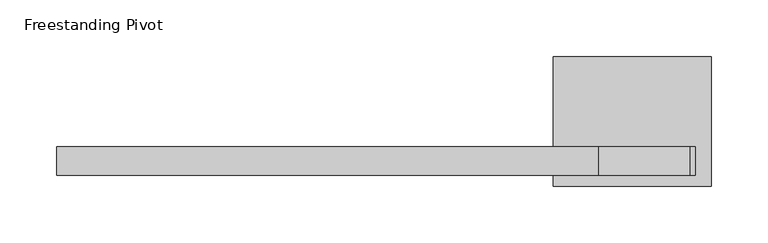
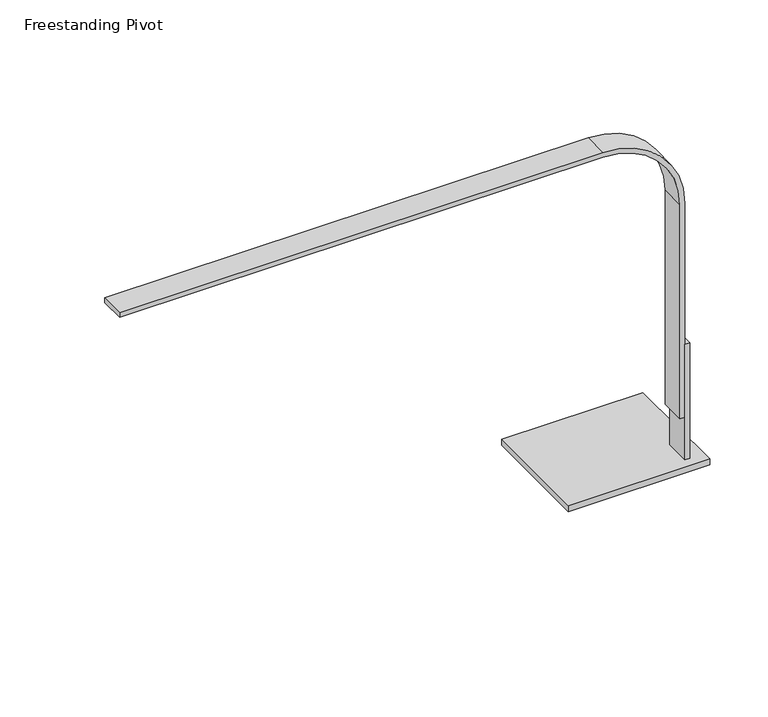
"""IFC4 building model written with IfcOpenShell, lengths in millimetres: light fixture geometry, Haworth_Lighting-LIM : Freestanding Pivot."""

import ifcopenshell
import ifcopenshell.guid

model = None  # the IFC model being written
_history = None  # IfcOwnerHistory: only IFC2X3 demands one
_inside = {}  # id of a spatial element -> (the spatial element, [elements in it])
_under = {}  # id of a project, library or spatial element -> (it, [spatial elements below it])
_declared = {}  # id of a project -> (the project, [libraries it declares])
_typed = {}  # id of a type object -> (the type object, [elements of that type])
_made_of = {}  # id of a material, layer set ... -> (it, [elements and type objects made of it])


def new_model(schema):
    """Start an empty IFC model of exactly this schema.

    Asked for "IFC4X3", IfcOpenShell would pick the latest addendum, in which some entities
    have other attributes; the version numbers below select the first issue.
    IFC2X3 requires an IfcOwnerHistory on every rooted entity: one is made here for all.
    """
    global model, _history
    if schema == "IFC4X3":
        model = ifcopenshell.file(schema_version=(4, 3, 0, 0))
    else:
        model = ifcopenshell.file(schema=schema)
    _inside.clear()
    _under.clear()
    _declared.clear()
    _typed.clear()
    _made_of.clear()
    _history = None
    if model.schema == "IFC2X3":
        org = make("IfcOrganization", Name="unknown")
        user = make(
            "IfcPersonAndOrganization",
            ThePerson=make("IfcPerson", FamilyName="unknown"),
            TheOrganization=org,
        )
        app = make(
            "IfcApplication",
            ApplicationDeveloper=org,
            Version="unknown",
            ApplicationFullName="unknown",
            ApplicationIdentifier="unknown",
        )
        _history = make(
            "IfcOwnerHistory",
            OwningUser=user,
            OwningApplication=app,
            ChangeAction="ADDED",
            CreationDate=0,
        )
    return model


def make(cls, **values):
    """One entity of the class cls with the attributes given. An attribute that is None is left unset."""
    return model.create_entity(
        cls, **{name: value for name, value in values.items() if value is not None}
    )


def rooted(cls, **values):
    """An entity with a GlobalId (a new one), such as an element, a storey or a relation."""
    return make(cls, GlobalId=ifcopenshell.guid.new(), OwnerHistory=_history, **values)


def si_unit(unit_type, name, prefix=None):
    """IfcSIUnit, for example si_unit("LENGTHUNIT", "METRE", prefix="MILLI")."""
    return make("IfcSIUnit", UnitType=unit_type, Prefix=prefix, Name=name)


def assignment(units):
    """IfcUnitAssignment: the units of a project."""
    return None if units is None else make("IfcUnitAssignment", Units=units)


def point(xyz):
    """IfcCartesianPoint."""
    return None if xyz is None else make("IfcCartesianPoint", Coordinates=xyz)


def direction(xyz):
    """IfcDirection."""
    return None if xyz is None else make("IfcDirection", DirectionRatios=xyz)


def frame(location, z_axis=None, x_axis=None):
    """IfcAxis2Placement3D, a coordinate frame: its origin and axes. An axis left out is left unset."""
    return make(
        "IfcAxis2Placement3D",
        Location=point(location),
        Axis=direction(z_axis),
        RefDirection=direction(x_axis),
    )


def frame_2d(location, x_axis=None):
    """IfcAxis2Placement2D, a coordinate frame in the plane: its origin and x axis."""
    return make(
        "IfcAxis2Placement2D", Location=point(location), RefDirection=direction(x_axis)
    )


def origin():
    """The frame at (0, 0, 0) with its axes left unset."""
    return frame((0.0, 0.0, 0.0))


def place(relative_to, where):
    """IfcLocalPlacement: puts the frame where relative to a parent placement (None: the world)."""
    return make(
        "IfcLocalPlacement", PlacementRelTo=relative_to, RelativePlacement=where
    )


def context(
    kind, dimensions, precision=None, world=None, true_north=None, identifier=None
):
    """IfcGeometricRepresentationContext, for example the 3D "Model" context."""
    return make(
        "IfcGeometricRepresentationContext",
        ContextIdentifier=identifier,
        ContextType=kind,
        CoordinateSpaceDimension=dimensions,
        Precision=precision,
        WorldCoordinateSystem=world,
        TrueNorth=true_north,
    )


def project(units=None, contexts=None):
    """IfcProject with its units and contexts."""
    return rooted(
        "IfcProject",
        Name="project",
        RepresentationContexts=contexts,
        UnitsInContext=assignment(units),
    )


def spatial(cls, under=None, at=None, **own):
    """A site, building, storey or space (cls), placed at a placement, below another one or the project."""
    s = rooted(cls, ObjectPlacement=at, **own)
    if under is not None:
        _under.setdefault(under.id(), (under, []))[1].append(s)
    return s


def polyline(points):
    """IfcPolyline through the points."""
    return make("IfcPolyline", Points=[point(p) for p in points])


def circle_curve(where, radius):
    """IfcCircle in the frame where."""
    return make("IfcCircle", Position=where, Radius=radius)


def trimmed(basis, trim1, trim2, sense, master):
    """IfcTrimmedCurve: the piece of a basis curve between two trims."""
    return make(
        "IfcTrimmedCurve",
        BasisCurve=basis,
        Trim1=trim1,
        Trim2=trim2,
        SenseAgreement=sense,
        MasterRepresentation=master,
    )


def segment(curve, same_sense, transition):
    """IfcCompositeCurveSegment."""
    return make(
        "IfcCompositeCurveSegment",
        Transition=transition,
        SameSense=same_sense,
        ParentCurve=curve,
    )


def composite_curve(segments, self_intersect=None):
    """IfcCompositeCurve: segments joined end to end."""
    return make("IfcCompositeCurve", Segments=segments, SelfIntersect=self_intersect)


def outline(outer, holes=None, kind="AREA"):
    """IfcArbitraryClosedProfileDef: a profile drawn as a closed curve; with holes, ...WithVoids."""
    if holes is None:
        return make("IfcArbitraryClosedProfileDef", ProfileType=kind, OuterCurve=outer)
    return make(
        "IfcArbitraryProfileDefWithVoids",
        ProfileType=kind,
        OuterCurve=outer,
        InnerCurves=holes,
    )


def extrude(swept, where, along, depth):
    """IfcExtrudedAreaSolid: the profile swept, set in the frame where, extruded along a direction by depth."""
    return make(
        "IfcExtrudedAreaSolid",
        SweptArea=swept,
        Position=where,
        ExtrudedDirection=direction(along),
        Depth=depth,
    )


def faces_of(points, faces, orient=None, outer=None):
    """IfcFace entities. A face is a list of loops; a loop is a list of indices into points, from 0.

    orient and outer hold one flag for each loop. By default every Orientation is true, the
    first loop of a face is its IfcFaceOuterBound and the others are IfcFaceBound.
    """
    made = []
    for i, loops in enumerate(faces):
        bounds = []
        for j, loop in enumerate(loops):
            is_outer = j == 0 if outer is None else outer[i][j]
            bounds.append(
                make(
                    "IfcFaceOuterBound" if is_outer else "IfcFaceBound",
                    Bound=make("IfcPolyLoop", Polygon=[points[k] for k in loop]),
                    Orientation=True if orient is None else orient[i][j],
                )
            )
        made.append(make("IfcFace", Bounds=bounds))
    return made


def faceted_brep(points, faces, orient=None, outer=None, voids=None):
    """IfcFacetedBrep: a solid bounded by flat faces; with voids (closed shells), ...WithVoids."""
    shared = [point(p) for p in points]
    hull = make("IfcClosedShell", CfsFaces=faces_of(shared, faces, orient, outer))
    if voids is None:
        return make("IfcFacetedBrep", Outer=hull)
    return make(
        "IfcFacetedBrepWithVoids",
        Outer=hull,
        Voids=[
            make(cls, CfsFaces=faces_of(shared, fs, o, b)) for cls, fs, o, b in voids
        ],
    )


def shape(context_of_items, identifier, shape_type, items):
    """IfcShapeRepresentation: the items that make up one representation, for example the "Body"."""
    return make(
        "IfcShapeRepresentation",
        ContextOfItems=context_of_items,
        RepresentationIdentifier=identifier,
        RepresentationType=shape_type,
        Items=items,
    )


def source(mapping_origin, context_of_items, identifier, shape_type, items):
    """IfcRepresentationMap: a shape defined once, which mapped items show again and again."""
    return make(
        "IfcRepresentationMap",
        MappingOrigin=mapping_origin,
        MappedRepresentation=shape(context_of_items, identifier, shape_type, items),
    )


def transform(
    local_origin,
    x_axis=None,
    y_axis=None,
    z_axis=None,
    scale=None,
    scale2=None,
    scale3=None,
    uniform=True,
):
    """IfcCartesianTransformationOperator3D, or its non-uniform kind. x_axis, y_axis, z_axis: its Axis1, 2, 3."""
    if uniform:
        return make(
            "IfcCartesianTransformationOperator3D",
            Axis1=direction(x_axis),
            Axis2=direction(y_axis),
            LocalOrigin=point(local_origin),
            Scale=scale,
            Axis3=direction(z_axis),
        )
    return make(
        "IfcCartesianTransformationOperator3DnonUniform",
        Axis1=direction(x_axis),
        Axis2=direction(y_axis),
        LocalOrigin=point(local_origin),
        Scale=scale,
        Axis3=direction(z_axis),
        Scale2=scale2,
        Scale3=scale3,
    )


def mapped(mapping_source, mapping_target):
    """IfcMappedItem: shows the shape of a source again, moved by a transform."""
    return make(
        "IfcMappedItem", MappingSource=mapping_source, MappingTarget=mapping_target
    )


def made_of(thing, what):
    """Note that an element or type object is made of a material, layer set ...; save() writes the relation."""
    if what is not None:
        _made_of.setdefault(what.id(), (what, []))[1].append(thing)
    return thing


def element(
    cls,
    number,
    at=None,
    inside=None,
    cuts=None,
    type_object=None,
    material=None,
    context=None,
    identifier="Body",
    shape_type=None,
    held_by="IfcProductDefinitionShape",
    body=None,
    shapes=None,
    **own,
):
    """One element of the class cls, such as IfcWall. Its Tag is "e" and its number.

    at: its placement. inside: the storey or other place that contains it. cuts: it is an
    opening in that element (IfcRelVoidsElement). A single representation is given by context,
    identifier, shape_type and body (its items); several are given by shapes. held_by: the class
    of the entity that holds the representations. save() writes the other relations.
    """
    e = rooted(cls, Tag="e%d" % number, ObjectPlacement=at, **own)
    if body is not None:
        shapes = [shape(context, identifier, shape_type, body)]
    if shapes is not None:
        e.Representation = make(held_by, Representations=shapes)
    if inside is not None:
        _inside.setdefault(inside.id(), (inside, []))[1].append(e)
    if cuts is not None:
        rooted(
            "IfcRelVoidsElement", RelatingBuildingElement=cuts, RelatedOpeningElement=e
        )
    if type_object is not None:
        _typed.setdefault(type_object.id(), (type_object, []))[1].append(e)
    return made_of(e, material)


def aggregate(whole, parts):
    """IfcRelAggregates: a whole, such as a stair, and the parts it consists of."""
    return rooted("IfcRelAggregates", RelatingObject=whole, RelatedObjects=parts)


def save(model, path):
    """Write the relations noted so far, then the file.

    IfcRelAggregates (storeys below a building ...), IfcRelContainedInSpatialStructure (elements
    in a storey), IfcRelDefinesByType, IfcRelAssociatesMaterial and IfcRelDeclares: one each for
    every whole, place, type object, material and project.
    """
    for whole, parts in _under.values():
        aggregate(whole, parts)
    for where, things in _inside.values():
        rooted(
            "IfcRelContainedInSpatialStructure",
            RelatedElements=things,
            RelatingStructure=where,
        )
    for kind, things in _typed.values():
        rooted("IfcRelDefinesByType", RelatedObjects=things, RelatingType=kind)
    for what, things in _made_of.values():
        rooted("IfcRelAssociatesMaterial", RelatedObjects=things, RelatingMaterial=what)
    for by, libraries in _declared.values():
        rooted("IfcRelDeclares", RelatingContext=by, RelatedDefinitions=libraries)
    model.write(path)


def freestanding_pivot_89a99560(model_context):
    return source(origin(), model_context, "Body", "SolidModel", [
        faceted_brep([(34.1911301, 236.9532085, 863.6), (29.4286301, 236.9532085, 863.6), (29.4286301, 211.5532085, 863.6), (34.1911301, 211.5532085, 863.6), (48.4786301, 316.3282085, 736.6), (48.4786301, 202.0282085, 736.6), (-91.2213699, 202.0282085, 736.6), (-91.2213699, 316.3282085, 736.6), (34.1911301, 211.5532085, 742.95), (34.1911301, 236.9532085, 742.95), (29.4286301, 211.5532085, 742.95), (29.4286301, 236.9532085, 742.95), (48.4786301, 316.3282085, 742.95), (-91.2213699, 316.3282085, 742.95), (-91.2213699, 202.0282085, 742.95), (48.4786301, 202.0282085, 742.95)], [[[0, 1, 2, 3]], [[4, 5, 6, 7]], [[0, 3, 8, 9]], [[3, 2, 10, 8]], [[2, 1, 11, 10]], [[1, 0, 9, 11]], [[12, 13, 14, 15], [9, 8, 10, 11]], [[13, 12, 4, 7]], [[14, 13, 7, 6]], [[15, 14, 6, 5]], [[12, 15, 5, 4]]]),
        extrude(outline(composite_curve([segment(polyline([(1092.2, -529.3713699), (1087.4375, -529.3713699), (1087.4375, -51.5338699)]), True, "CONTINUOUS"), segment(trimmed(circle_curve(frame_2d((1011.2375, -51.5338699)), 76.2), [point((1087.4375, -51.5338699))], [point((1011.2375, 24.6661301))], True, "CARTESIAN"), True, "CONTINUOUS"), segment(polyline([(1011.2375, 24.6661301), (787.4, 24.6661301), (787.4, 29.4286301), (1011.2375, 29.4286301)]), True, "CONTINUOUS"), segment(trimmed(circle_curve(frame_2d((1011.2375, -51.5338699)), 80.9625), [point((1011.2375, 29.4286301))], [point((1092.2, -51.5338699))], False, "CARTESIAN"), True, "CONTINUOUS"), segment(polyline([(1092.2, -51.5338699), (1092.2, -529.3713699)]), True, "CONTINUOUS")], self_intersect=False)), frame((0.0, 211.5532085, 0.0), z_axis=(0.0, 1.0, 0.0), x_axis=(0.0, 0.0, 1.0)), (0.0, 0.0, 1.0), 25.4),
    ])


if __name__ == "__main__":
    model = new_model("IFC4")
    model_context = context("Model", 3, world=origin())
    ifc_project = project(units=[si_unit("LENGTHUNIT", "METRE", prefix="MILLI")], contexts=[model_context])
    site = spatial("IfcSite", under=ifc_project)
    building = spatial("IfcBuilding", under=site)
    placement = place(None, origin())
    freestanding_pivot_shape = freestanding_pivot_89a99560(model_context)
    element("IfcLightFixture", 1, ObjectType="Haworth_Lighting-LIM : Freestanding Pivot", at=placement, inside=building, context=model_context, shape_type="MappedRepresentation", body=[
        mapped(freestanding_pivot_shape, transform((0.0, 0.0, 0.0), x_axis=(1.0, 0.0, 0.0), y_axis=(0.0, 1.0, 0.0), z_axis=(0.0, 0.0, 1.0))),
    ])
    save(model, "model.ifc")
